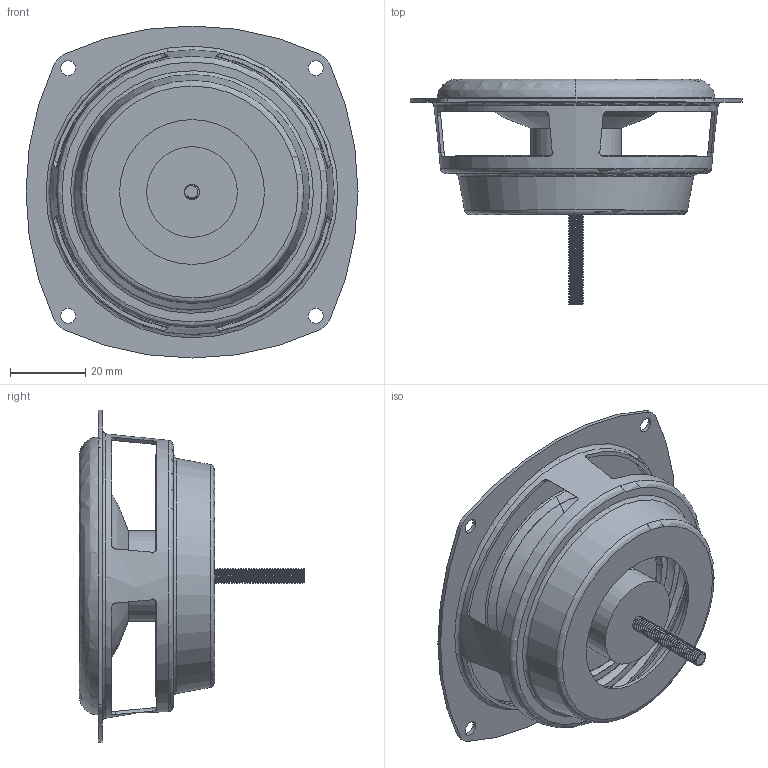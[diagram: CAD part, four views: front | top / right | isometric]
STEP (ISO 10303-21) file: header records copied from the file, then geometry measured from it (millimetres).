
FILE_DESCRIPTION(/* description */ (''),/* implementation_level */ '2;1');
FILE_NAME(/* name */ 'ND90-PR.step',/* time_stamp */ '2026-03-23T17:23:18-04:00',/* author */ (''),/* organization */ (''),/* preprocessor_version */ 'ST-DEVELOPER v20.1',/* originating_system */ 'Autodesk Translation Framework v14.24.0.0',/* authorisation */ '');
FILE_SCHEMA (('AUTOMOTIVE_DESIGN { 1 0 10303 214 3 1 1 }'));
Length unit declared in the file: millimetre
Products named in the file (1): RMW032112A10_ASM
Bounding box: 88.5 x 60.1 x 88.5 mm (x, y, z)
Volume: 22114.8 mm3; surface area: 43329.8 mm2
Topology: 1 solids, 2 shells, 186 faces, 567 edges, 390 vertices
Faces by surface type: cylinder 105, plane 39, bspline 26, torus 8, cone 8
Full cylindrical faces by diameter (mm): 3.111 x14, 3.908 x24, 4 x4, 24 x2, 24.2 x2, 38.626 x1, 82 x1
Entity records: 13607 total; most frequent: CARTESIAN_POINT 8991, ORIENTED_EDGE 1126, DIRECTION 708, EDGE_CURVE 563, VERTEX_POINT 390, B_SPLINE_CURVE_WITH_KNOTS 305, AXIS2_PLACEMENT_3D 289, EDGE_LOOP 229
